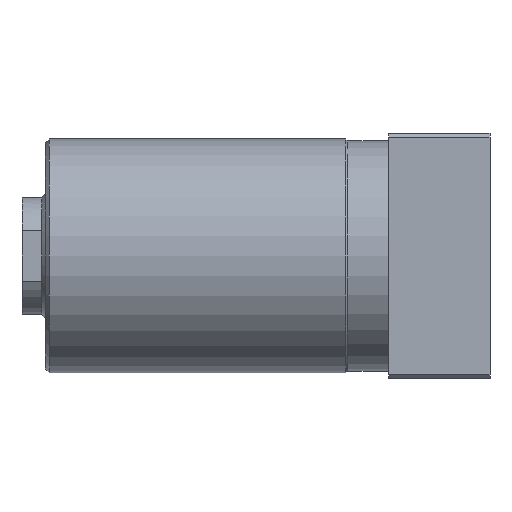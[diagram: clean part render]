
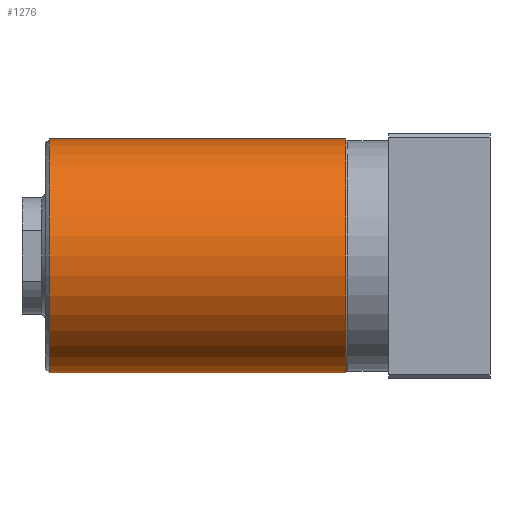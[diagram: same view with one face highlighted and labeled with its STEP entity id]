
A CAD part, left-side view. The second image highlights one B-rep face of the part: STEP entity #1276.
In plain terms, the highlighted cylindrical face has radius 30 mm (diameter 60 mm), a partial arc.
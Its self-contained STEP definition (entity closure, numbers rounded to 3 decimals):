
#82 = EDGE_CURVE ( 'NONE', #295, #529, #803, .T. ) ;
#96 = CYLINDRICAL_SURFACE ( 'NONE', #537, 30. ) ;
#143 = DIRECTION ( 'NONE',  ( 0., 0., -1. ) ) ;
#144 = VECTOR ( 'NONE', #779, 1000. ) ;
#169 = LINE ( 'NONE', #333, #442 ) ;
#170 = CIRCLE ( 'NONE', #1008, 30. ) ;
#246 = DIRECTION ( 'NONE',  ( 0., 0., 1. ) ) ;
#295 = VERTEX_POINT ( 'NONE', #943 ) ;
#301 = CARTESIAN_POINT ( 'NONE',  ( 0., 114., -30. ) ) ;
#329 = EDGE_LOOP ( 'NONE', ( #397, #854, #1474, #1020 ) ) ;
#333 = CARTESIAN_POINT ( 'NONE',  ( 0., 114., 30. ) ) ;
#356 = CARTESIAN_POINT ( 'NONE',  ( 0., 37., -30. ) ) ;
#397 = ORIENTED_EDGE ( 'NONE', *, *, #1565, .F. ) ;
#401 = CARTESIAN_POINT ( 'NONE',  ( 0., 113., 0. ) ) ;
#442 = VECTOR ( 'NONE', #945, 1000. ) ;
#503 = DIRECTION ( 'NONE',  ( 0., -1., 0. ) ) ;
#529 = VERTEX_POINT ( 'NONE', #356 ) ;
#537 = AXIS2_PLACEMENT_3D ( 'NONE', #1347, #503, #143 ) ;
#563 = CIRCLE ( 'NONE', #1477, 30. ) ;
#595 = EDGE_CURVE ( 'NONE', #529, #1241, #170, .T. ) ;
#649 = VERTEX_POINT ( 'NONE', #844 ) ;
#734 = FACE_OUTER_BOUND ( 'NONE', #329, .T. ) ;
#779 = DIRECTION ( 'NONE',  ( 0., -1., 0. ) ) ;
#803 = LINE ( 'NONE', #301, #144 ) ;
#844 = CARTESIAN_POINT ( 'NONE',  ( 0., 113., 30. ) ) ;
#851 = DIRECTION ( 'NONE',  ( 0., 1., 0. ) ) ;
#854 = ORIENTED_EDGE ( 'NONE', *, *, #914, .T. ) ;
#914 = EDGE_CURVE ( 'NONE', #649, #295, #563, .T. ) ;
#943 = CARTESIAN_POINT ( 'NONE',  ( 0., 113., -30. ) ) ;
#945 = DIRECTION ( 'NONE',  ( 0., -1., 0. ) ) ;
#979 = CARTESIAN_POINT ( 'NONE',  ( 0., 37., 30. ) ) ;
#1008 = AXIS2_PLACEMENT_3D ( 'NONE', #1468, #851, #1097 ) ;
#1020 = ORIENTED_EDGE ( 'NONE', *, *, #595, .T. ) ;
#1097 = DIRECTION ( 'NONE',  ( 0., 0., 1. ) ) ;
#1241 = VERTEX_POINT ( 'NONE', #979 ) ;
#1276 = ADVANCED_FACE ( 'NONE', ( #734 ), #96, .T. ) ;
#1347 = CARTESIAN_POINT ( 'NONE',  ( 0., 114., 0. ) ) ;
#1375 = DIRECTION ( 'NONE',  ( 0., -1., 0. ) ) ;
#1468 = CARTESIAN_POINT ( 'NONE',  ( 0., 37., 0. ) ) ;
#1474 = ORIENTED_EDGE ( 'NONE', *, *, #82, .T. ) ;
#1477 = AXIS2_PLACEMENT_3D ( 'NONE', #401, #1375, #246 ) ;
#1565 = EDGE_CURVE ( 'NONE', #649, #1241, #169, .T. ) ;
